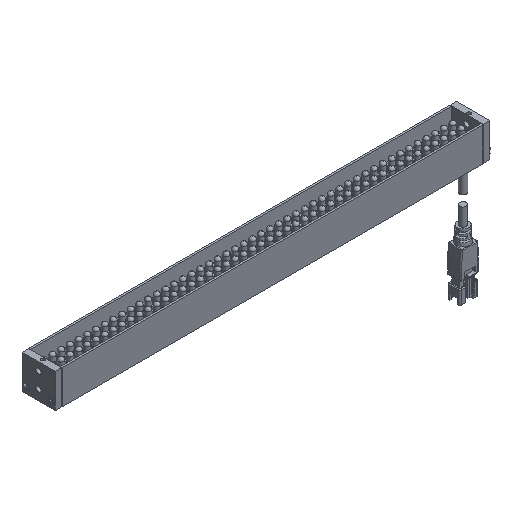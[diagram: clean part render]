
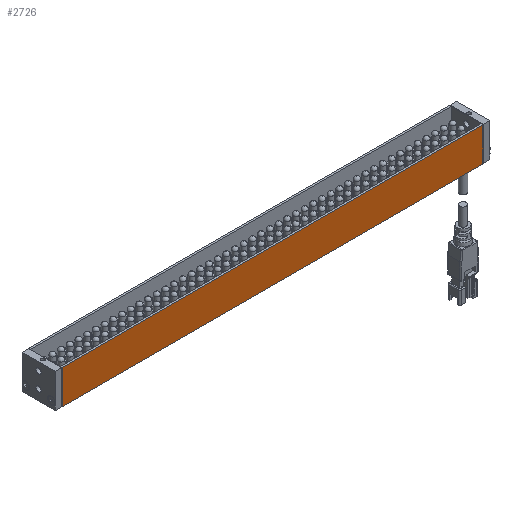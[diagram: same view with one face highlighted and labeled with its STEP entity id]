
A CAD part, isometric view. The second image highlights one B-rep face of the part: STEP entity #2726.
In plain terms, the highlighted planar face has unit normal (0, -1, 0).
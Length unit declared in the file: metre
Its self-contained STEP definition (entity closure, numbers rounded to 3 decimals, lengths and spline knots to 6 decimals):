
#2726=ADVANCED_FACE('3:7665',(#6475),#6476,.F.);
#6475=FACE_OUTER_BOUND('',#10803,.T.);
#6476=PLANE('',#10804);
#10803=EDGE_LOOP('',(#18843,#18844,#18845,#18846));
#10804=AXIS2_PLACEMENT_3D('',#18847,#18848,#18849);
#18843=ORIENTED_EDGE('',*,*,#22813,.T.);
#18844=ORIENTED_EDGE('',*,*,#22814,.T.);
#18845=ORIENTED_EDGE('',*,*,#22815,.F.);
#18846=ORIENTED_EDGE('',*,*,#22816,.F.);
#18847=CARTESIAN_POINT('',(-0.183004,-0.028754,0.01925));
#18848=DIRECTION('',(0.,1.0,0.));
#18849=DIRECTION('',(-1.0,0.,0.));
#22813=EDGE_CURVE('3:11805',#25491,#25492,#25493,.T.);
#22814=EDGE_CURVE('3:10071',#25492,#25494,#25495,.T.);
#22815=EDGE_CURVE('3:11847',#25496,#25494,#25497,.T.);
#22816=EDGE_CURVE('3:10074',#25491,#25496,#25498,.T.);
#25491=VERTEX_POINT('',#28749);
#25492=VERTEX_POINT('',#28750);
#25493=LINE('',#28751,#28752);
#25494=VERTEX_POINT('',#28753);
#25495=LINE('',#28754,#28755);
#25496=VERTEX_POINT('',#28756);
#25497=LINE('',#28757,#28758);
#25498=LINE('',#28759,#28760);
#28749=CARTESIAN_POINT('',(-0.175004,-0.028754,0.01925));
#28750=CARTESIAN_POINT('',(0.066996,-0.028754,0.01925));
#28751=CARTESIAN_POINT('',(-0.183004,-0.028754,0.01925));
#28752=VECTOR('',#31169,1.0);
#28753=CARTESIAN_POINT('',(0.066996,-0.028754,0.03875));
#28754=CARTESIAN_POINT('',(0.066996,-0.028754,0.01925));
#28755=VECTOR('',#31170,1.0);
#28756=CARTESIAN_POINT('',(-0.175004,-0.028754,0.03875));
#28757=CARTESIAN_POINT('',(-0.183004,-0.028754,0.03875));
#28758=VECTOR('',#31171,1.0);
#28759=CARTESIAN_POINT('',(-0.175004,-0.028754,0.01925));
#28760=VECTOR('',#31172,1.0);
#31169=DIRECTION('',(1.0,0.,0.));
#31170=DIRECTION('',(0.0,0.,1.0));
#31171=DIRECTION('',(1.0,0.,0.));
#31172=DIRECTION('',(0.0,0.,1.0));
